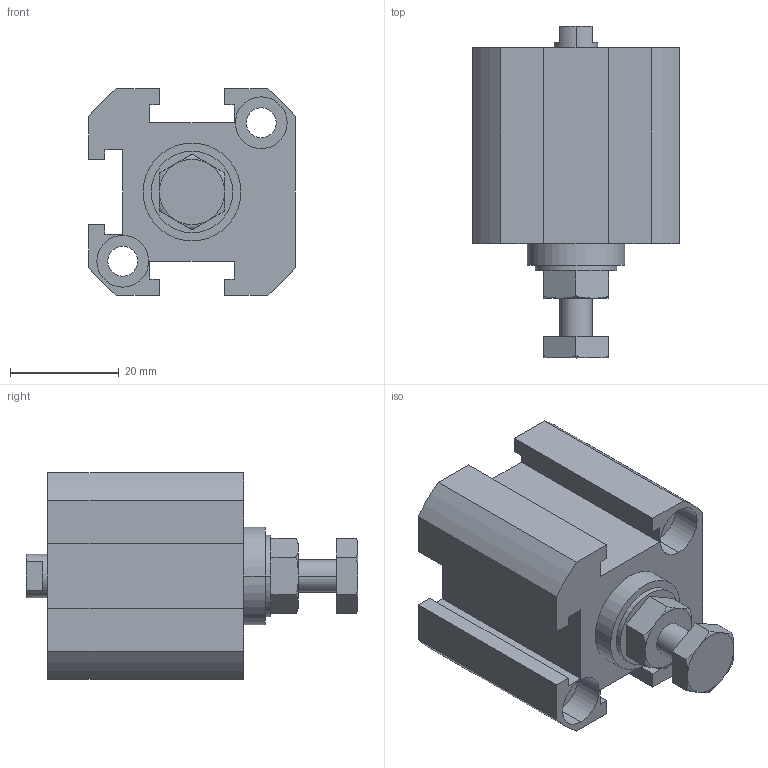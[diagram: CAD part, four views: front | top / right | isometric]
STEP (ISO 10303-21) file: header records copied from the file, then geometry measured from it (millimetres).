
FILE_DESCRIPTION (( 'STEP AP203' ), '1' );
FILE_NAME ('XGA2-20-10.STEP', '2016-05-24T02:39:48', ( '' ), ( '' ), 'SwSTEP 2.0', 'SolidWorks 2014', '' );
FILE_SCHEMA (( 'CONFIG_CONTROL_DESIGN' ));
Length unit declared in the file: millimetre
Products named in the file (3): X#A2-20-H; XG#2-20-10; XGA2-20-10
Assembly tree (2 placements, depth 2):
  XGA2-20-10
    XG#2-20-10
    X#A2-20-H
Bounding box: 38 x 61 x 38 mm (x, y, z)
Volume: 39951.1 mm3; surface area: 13075.2 mm2
Topology: 2 solids, 2 shells, 125 faces, 305 edges, 194 vertices
Faces by surface type: plane 62, cylinder 45, torus 12, cone 6
Entity records: 4161 total; most frequent: CARTESIAN_POINT 887, DIRECTION 642, ORIENTED_EDGE 598, EDGE_CURVE 299, AXIS2_PLACEMENT_3D 237, VERTEX_POINT 194, VECTOR 168, LINE 168
